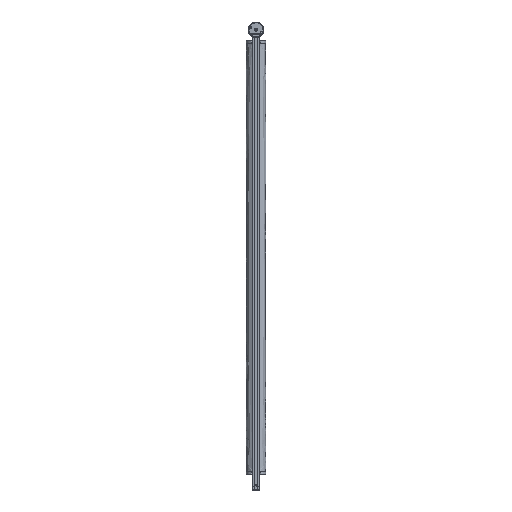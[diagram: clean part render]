
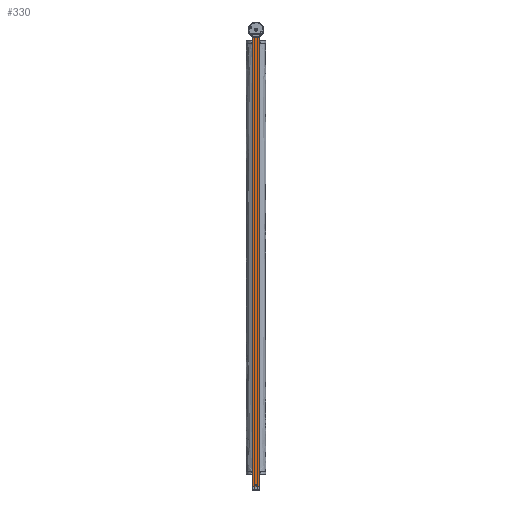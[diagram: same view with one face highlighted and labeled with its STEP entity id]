
A CAD part, top view. The second image highlights one B-rep face of the part: STEP entity #330.
In plain terms, the highlighted planar face has unit normal (0, 0, 1).
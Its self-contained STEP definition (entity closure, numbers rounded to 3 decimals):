
#45=FACE_BOUND('',#1524,.T.);
#46=FACE_BOUND('',#1525,.T.);
#330=ADVANCED_FACE('',(#924,#45,#46),#9409,.T.);
#924=FACE_OUTER_BOUND('',#1523,.T.);
#1523=EDGE_LOOP('',(#3001,#3002,#3003,#3004,#3005,#3006,#3007,#3008,#3009,
#3010,#3011,#3012));
#1524=EDGE_LOOP('',(#3013,#3014));
#1525=EDGE_LOOP('',(#3015,#3016));
#3001=ORIENTED_EDGE('',*,*,#5828,.F.);
#3002=ORIENTED_EDGE('',*,*,#5892,.F.);
#3003=ORIENTED_EDGE('',*,*,#5661,.F.);
#3004=ORIENTED_EDGE('',*,*,#5894,.F.);
#3005=ORIENTED_EDGE('',*,*,#5833,.F.);
#3006=ORIENTED_EDGE('',*,*,#5662,.F.);
#3007=ORIENTED_EDGE('',*,*,#5877,.F.);
#3008=ORIENTED_EDGE('',*,*,#5883,.F.);
#3009=ORIENTED_EDGE('',*,*,#5663,.F.);
#3010=ORIENTED_EDGE('',*,*,#5885,.F.);
#3011=ORIENTED_EDGE('',*,*,#5871,.F.);
#3012=ORIENTED_EDGE('',*,*,#5664,.F.);
#3013=ORIENTED_EDGE('',*,*,#5527,.T.);
#3014=ORIENTED_EDGE('',*,*,#5921,.F.);
#3015=ORIENTED_EDGE('',*,*,#5899,.F.);
#3016=ORIENTED_EDGE('',*,*,#5539,.T.);
#5527=EDGE_CURVE('',#8560,#8559,#7789,.T.);
#5539=EDGE_CURVE('',#8572,#8571,#7795,.T.);
#5661=EDGE_CURVE('',#8777,#8776,#7107,.T.);
#5662=EDGE_CURVE('',#8612,#8697,#7108,.T.);
#5663=EDGE_CURVE('',#8781,#8780,#7109,.T.);
#5664=EDGE_CURVE('',#8714,#8593,#7110,.T.);
#5828=EDGE_CURVE('',#8775,#8714,#7223,.T.);
#5833=EDGE_CURVE('',#8697,#8778,#7227,.T.);
#5871=EDGE_CURVE('',#8593,#8782,#7256,.T.);
#5877=EDGE_CURVE('',#8779,#8612,#7261,.T.);
#5883=EDGE_CURVE('',#8780,#8779,#7889,.T.);
#5885=EDGE_CURVE('',#8782,#8781,#7891,.T.);
#5892=EDGE_CURVE('',#8776,#8775,#7895,.T.);
#5894=EDGE_CURVE('',#8778,#8777,#7897,.T.);
#5899=EDGE_CURVE('',#8572,#8571,#7899,.T.);
#5921=EDGE_CURVE('',#8560,#8559,#7917,.T.);
#7107=B_SPLINE_CURVE_WITH_KNOTS('',1,(#15658,#15659),.UNSPECIFIED.,.F.,
 .F.,(2,2),(-15.837,0.),.UNSPECIFIED.);
#7108=B_SPLINE_CURVE_WITH_KNOTS('',1,(#15660,#15661),.UNSPECIFIED.,.F.,
 .F.,(2,2),(-1650.,0.),.UNSPECIFIED.);
#7109=B_SPLINE_CURVE_WITH_KNOTS('',1,(#15662,#15663),.UNSPECIFIED.,.F.,
 .F.,(2,2),(-15.837,0.),.UNSPECIFIED.);
#7110=B_SPLINE_CURVE_WITH_KNOTS('',1,(#15664,#15665),.UNSPECIFIED.,.F.,
 .F.,(2,2),(-1650.,0.),.UNSPECIFIED.);
#7223=B_SPLINE_CURVE_WITH_KNOTS('',1,(#16129,#16130),.UNSPECIFIED.,.F.,
 .F.,(2,2),(0.,8.717),.UNSPECIFIED.);
#7227=B_SPLINE_CURVE_WITH_KNOTS('',1,(#16141,#16142),.UNSPECIFIED.,.F.,
 .F.,(2,2),(0.,8.717),.UNSPECIFIED.);
#7256=B_SPLINE_CURVE_WITH_KNOTS('',1,(#16257,#16258),.UNSPECIFIED.,.F.,
 .F.,(2,2),(0.,8.717),.UNSPECIFIED.);
#7261=B_SPLINE_CURVE_WITH_KNOTS('',1,(#16271,#16272),.UNSPECIFIED.,.F.,
 .F.,(2,2),(0.,8.717),.UNSPECIFIED.);
#7789=(
BOUNDED_CURVE()
B_SPLINE_CURVE(2,(#15310,#15311,#15312,#15313,#15314),.UNSPECIFIED.,.F.,
 .F.)
B_SPLINE_CURVE_WITH_KNOTS((3,2,3),(-5.498,-2.749,
0.),.UNSPECIFIED.)
CURVE()
GEOMETRIC_REPRESENTATION_ITEM()
RATIONAL_B_SPLINE_CURVE((1.,0.707,1.,0.707,1.))
REPRESENTATION_ITEM('')
);
#7795=(
BOUNDED_CURVE()
B_SPLINE_CURVE(2,(#15352,#15353,#15354,#15355,#15356),.UNSPECIFIED.,.F.,
 .F.)
B_SPLINE_CURVE_WITH_KNOTS((3,2,3),(-5.498,-2.749,
0.),.UNSPECIFIED.)
CURVE()
GEOMETRIC_REPRESENTATION_ITEM()
RATIONAL_B_SPLINE_CURVE((1.,0.707,1.,0.707,1.))
REPRESENTATION_ITEM('')
);
#7889=(
BOUNDED_CURVE()
B_SPLINE_CURVE(2,(#16286,#16287,#16288),.UNSPECIFIED.,.F.,.F.)
B_SPLINE_CURVE_WITH_KNOTS((3,3),(0.,4.146),.UNSPECIFIED.)
CURVE()
GEOMETRIC_REPRESENTATION_ITEM()
RATIONAL_B_SPLINE_CURVE((1.,0.771,1.))
REPRESENTATION_ITEM('')
);
#7891=(
BOUNDED_CURVE()
B_SPLINE_CURVE(2,(#16292,#16293,#16294),.UNSPECIFIED.,.F.,.F.)
B_SPLINE_CURVE_WITH_KNOTS((3,3),(0.,4.146),.UNSPECIFIED.)
CURVE()
GEOMETRIC_REPRESENTATION_ITEM()
RATIONAL_B_SPLINE_CURVE((1.,0.771,1.))
REPRESENTATION_ITEM('')
);
#7895=(
BOUNDED_CURVE()
B_SPLINE_CURVE(2,(#16320,#16321,#16322),.UNSPECIFIED.,.F.,.F.)
B_SPLINE_CURVE_WITH_KNOTS((3,3),(0.,4.146),.UNSPECIFIED.)
CURVE()
GEOMETRIC_REPRESENTATION_ITEM()
RATIONAL_B_SPLINE_CURVE((1.,0.771,1.))
REPRESENTATION_ITEM('')
);
#7897=(
BOUNDED_CURVE()
B_SPLINE_CURVE(2,(#16326,#16327,#16328),.UNSPECIFIED.,.F.,.F.)
B_SPLINE_CURVE_WITH_KNOTS((3,3),(0.,4.146),.UNSPECIFIED.)
CURVE()
GEOMETRIC_REPRESENTATION_ITEM()
RATIONAL_B_SPLINE_CURVE((1.,0.771,1.))
REPRESENTATION_ITEM('')
);
#7899=(
BOUNDED_CURVE()
B_SPLINE_CURVE(2,(#16340,#16341,#16342,#16343,#16344),.UNSPECIFIED.,.F.,
 .F.)
B_SPLINE_CURVE_WITH_KNOTS((3,2,3),(0.,2.749,5.498),
 .UNSPECIFIED.)
CURVE()
GEOMETRIC_REPRESENTATION_ITEM()
RATIONAL_B_SPLINE_CURVE((1.,0.707,1.,0.707,1.))
REPRESENTATION_ITEM('')
);
#7917=(
BOUNDED_CURVE()
B_SPLINE_CURVE(2,(#16434,#16435,#16436,#16437,#16438),.UNSPECIFIED.,.F.,
 .F.)
B_SPLINE_CURVE_WITH_KNOTS((3,2,3),(0.,2.749,5.498),
 .UNSPECIFIED.)
CURVE()
GEOMETRIC_REPRESENTATION_ITEM()
RATIONAL_B_SPLINE_CURVE((1.,0.707,1.,0.707,1.))
REPRESENTATION_ITEM('')
);
#8559=VERTEX_POINT('',#14895);
#8560=VERTEX_POINT('',#14896);
#8571=VERTEX_POINT('',#14907);
#8572=VERTEX_POINT('',#14908);
#8593=VERTEX_POINT('',#14929);
#8612=VERTEX_POINT('',#14948);
#8697=VERTEX_POINT('',#15033);
#8714=VERTEX_POINT('',#15050);
#8775=VERTEX_POINT('',#15111);
#8776=VERTEX_POINT('',#15112);
#8777=VERTEX_POINT('',#15113);
#8778=VERTEX_POINT('',#15114);
#8779=VERTEX_POINT('',#15115);
#8780=VERTEX_POINT('',#15116);
#8781=VERTEX_POINT('',#15117);
#8782=VERTEX_POINT('',#15118);
#9409=PLANE('',#10117);
#10117=AXIS2_PLACEMENT_3D('',#13344,#10378,$);
#10378=DIRECTION('',(0.,0.,1.));
#13344=CARTESIAN_POINT('',(-18.133,1411.981,399.391));
#14895=CARTESIAN_POINT('',(-1.383,-385.819,399.391));
#14896=CARTESIAN_POINT('',(-4.883,-385.819,399.391));
#14907=CARTESIAN_POINT('',(-1.383,1229.781,399.391));
#14908=CARTESIAN_POINT('',(-4.883,1229.781,399.391));
#14929=CARTESIAN_POINT('',(-15.633,1246.981,399.391));
#14948=CARTESIAN_POINT('',(9.367,1246.981,399.391));
#15033=CARTESIAN_POINT('',(9.367,-403.019,399.391));
#15050=CARTESIAN_POINT('',(-15.633,-403.019,399.391));
#15111=CARTESIAN_POINT('',(-13.998,-394.457,399.391));
#15112=CARTESIAN_POINT('',(-11.052,-392.019,399.391));
#15113=CARTESIAN_POINT('',(4.785,-392.019,399.391));
#15114=CARTESIAN_POINT('',(7.732,-394.457,399.391));
#15115=CARTESIAN_POINT('',(7.732,1238.418,399.391));
#15116=CARTESIAN_POINT('',(4.785,1235.981,399.391));
#15117=CARTESIAN_POINT('',(-11.052,1235.981,399.391));
#15118=CARTESIAN_POINT('',(-13.998,1238.418,399.391));
#15310=CARTESIAN_POINT('',(-4.883,-385.819,399.391));
#15311=CARTESIAN_POINT('',(-4.883,-384.069,399.391));
#15312=CARTESIAN_POINT('',(-3.133,-384.069,399.391));
#15313=CARTESIAN_POINT('',(-1.383,-384.069,399.391));
#15314=CARTESIAN_POINT('',(-1.383,-385.819,399.391));
#15352=CARTESIAN_POINT('',(-4.883,1229.781,399.391));
#15353=CARTESIAN_POINT('',(-4.883,1231.531,399.391));
#15354=CARTESIAN_POINT('',(-3.133,1231.531,399.391));
#15355=CARTESIAN_POINT('',(-1.383,1231.531,399.391));
#15356=CARTESIAN_POINT('',(-1.383,1229.781,399.391));
#15658=CARTESIAN_POINT('',(4.785,-392.019,399.391));
#15659=CARTESIAN_POINT('',(-11.052,-392.019,399.391));
#15660=CARTESIAN_POINT('',(9.367,1246.981,399.391));
#15661=CARTESIAN_POINT('',(9.367,-403.019,399.391));
#15662=CARTESIAN_POINT('',(-11.052,1235.981,399.391));
#15663=CARTESIAN_POINT('',(4.785,1235.981,399.391));
#15664=CARTESIAN_POINT('',(-15.633,-403.019,399.391));
#15665=CARTESIAN_POINT('',(-15.633,1246.981,399.391));
#16129=CARTESIAN_POINT('',(-13.998,-394.457,399.391));
#16130=CARTESIAN_POINT('',(-15.633,-403.019,399.391));
#16141=CARTESIAN_POINT('',(9.367,-403.019,399.391));
#16142=CARTESIAN_POINT('',(7.732,-394.457,399.391));
#16257=CARTESIAN_POINT('',(-15.633,1246.981,399.391));
#16258=CARTESIAN_POINT('',(-13.998,1238.418,399.391));
#16271=CARTESIAN_POINT('',(7.732,1238.418,399.391));
#16272=CARTESIAN_POINT('',(9.367,1246.981,399.391));
#16286=CARTESIAN_POINT('',(4.785,1235.981,399.391));
#16287=CARTESIAN_POINT('',(7.267,1235.981,399.391));
#16288=CARTESIAN_POINT('',(7.732,1238.418,399.391));
#16292=CARTESIAN_POINT('',(-13.998,1238.418,399.391));
#16293=CARTESIAN_POINT('',(-13.533,1235.981,399.391));
#16294=CARTESIAN_POINT('',(-11.052,1235.981,399.391));
#16320=CARTESIAN_POINT('',(-11.052,-392.019,399.391));
#16321=CARTESIAN_POINT('',(-13.533,-392.019,399.391));
#16322=CARTESIAN_POINT('',(-13.998,-394.457,399.391));
#16326=CARTESIAN_POINT('',(7.732,-394.457,399.391));
#16327=CARTESIAN_POINT('',(7.267,-392.019,399.391));
#16328=CARTESIAN_POINT('',(4.785,-392.019,399.391));
#16340=CARTESIAN_POINT('',(-4.883,1229.781,399.391));
#16341=CARTESIAN_POINT('',(-4.883,1228.031,399.391));
#16342=CARTESIAN_POINT('',(-3.133,1228.031,399.391));
#16343=CARTESIAN_POINT('',(-1.383,1228.031,399.391));
#16344=CARTESIAN_POINT('',(-1.383,1229.781,399.391));
#16434=CARTESIAN_POINT('',(-4.883,-385.819,399.391));
#16435=CARTESIAN_POINT('',(-4.883,-387.569,399.391));
#16436=CARTESIAN_POINT('',(-3.133,-387.569,399.391));
#16437=CARTESIAN_POINT('',(-1.383,-387.569,399.391));
#16438=CARTESIAN_POINT('',(-1.383,-385.819,399.391));
